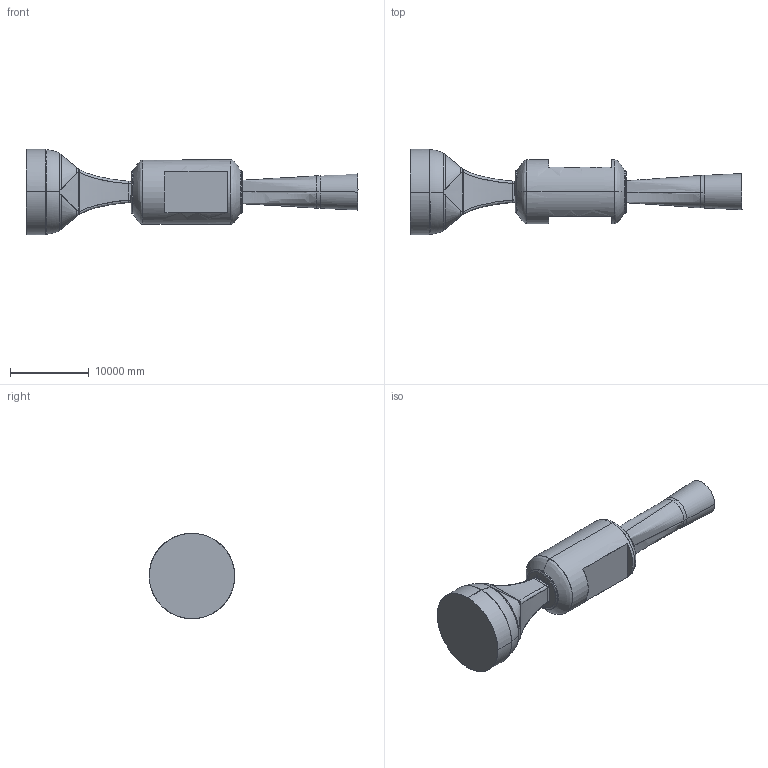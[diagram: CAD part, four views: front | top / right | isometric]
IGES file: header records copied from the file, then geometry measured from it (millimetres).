
Global section: file name: Z:\prj2.1\wind_tunnels\NTF\outgoing\NTF_Rumsey_October_2023\NTF_Contraction_TestSection_Diffusor_2023_10_02.igs; native system: NX V12.0; preprocessor: SIEMENS PLM Software NX 12.0; date: 20231003.103634; units: inch
Bounding box: 42269.46 x 10880.1 x 10865.39 mm (x, y, z)
Surface area: 1440693679.3 mm2 (no closed solid volume)
Topology: 0 solids, 0 shells, 917 faces, 9848 edges, 9848 vertices
Faces by surface type: bspline 917
